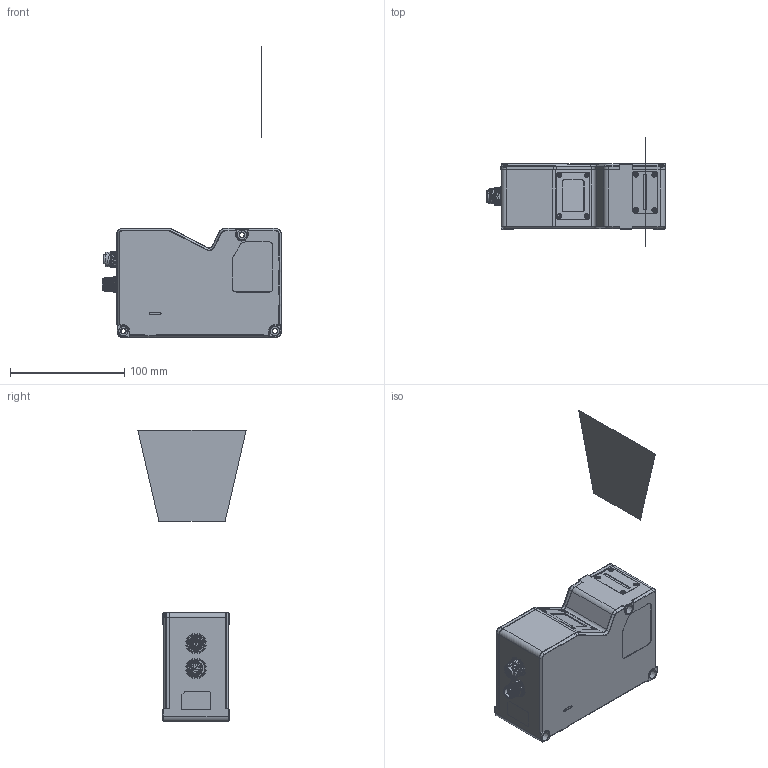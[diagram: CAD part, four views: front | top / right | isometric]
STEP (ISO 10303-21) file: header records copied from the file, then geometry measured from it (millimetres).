
FILE_DESCRIPTION((''),'2;1');
FILE_NAME('MV-DP2120-01P','2025-07-24T20:03:32',('wangminrui'),(''),'CREO PARAMETRIC BY PTC INC, 2020044','CREO PARAMETRIC BY PTC INC, 2020044','');
FILE_SCHEMA(('CONFIG_CONTROL_DESIGN'));
Products named in the file (1): MV-DP2120-01P
Bounding box: 157.5 x 95 x 256 mm (x, y, z)
Surface area: 69733.4 mm2 (no closed solid volume)
Topology: 0 solids, 44 shells, 837 faces, 2705 edges, 1859 vertices
Faces by surface type: plane 257, cylinder 237, cone 202, torus 85, bspline 56
Entity records: 47876 total; most frequent: CARTESIAN_POINT 24895, ORIENTED_EDGE 4620, DIRECTION 4616, EDGE_CURVE 2685, VERTEX_POINT 1859, AXIS2_PLACEMENT_3D 1714, VECTOR 1188, LINE 1188
